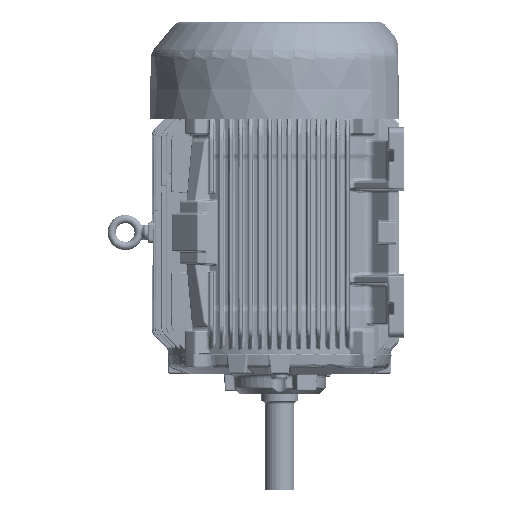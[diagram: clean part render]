
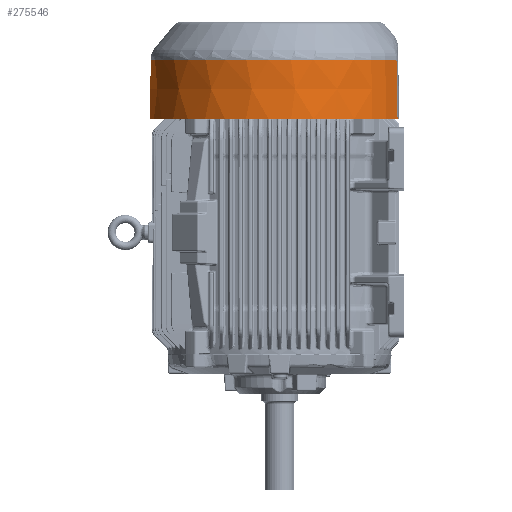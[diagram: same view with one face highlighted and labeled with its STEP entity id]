
A CAD part, left-side view. The second image highlights one B-rep face of the part: STEP entity #275546.
In plain terms, the highlighted conical face has half-angle 1 degrees and reference radius 263.606 mm.
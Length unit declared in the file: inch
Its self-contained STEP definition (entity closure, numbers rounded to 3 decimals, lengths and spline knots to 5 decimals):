
#268692=CARTESIAN_POINT('',(-4.38815,-9.45051,0.));
#268704=CARTESIAN_POINT('',(4.38815,-9.45051,0.));
#268710=CARTESIAN_POINT('',(-4.37264,-9.36644,
-4.74313));
#268711=CARTESIAN_POINT('',(-4.37393,-9.37342,
-4.34914));
#268712=CARTESIAN_POINT('',(-4.37648,-9.38726,
-3.5667));
#268713=CARTESIAN_POINT('',(-4.3802,-9.40736,
-2.43388));
#268714=CARTESIAN_POINT('',(-4.384,-9.42801,
-1.26935));
#268715=CARTESIAN_POINT('',(-4.38674,-9.44287,
-0.43116));
#268716=CARTESIAN_POINT('',(-4.38815,-9.45051,0.));
#268718=CARTESIAN_POINT('',(0.,0.,-4.74313));
#268719=DIRECTION('',(0.,0.,-1.));
#268720=DIRECTION('',(-0.423,-0.906,0.));
#268721=AXIS2_PLACEMENT_3D('',#268718,#268719,#268720);
#268723=CARTESIAN_POINT('',(4.38815,-9.45051,0.));
#268724=CARTESIAN_POINT('',(4.38698,-9.44414,
-0.35943));
#268725=CARTESIAN_POINT('',(4.38458,-9.43112,
-1.09362));
#268726=CARTESIAN_POINT('',(4.38086,-9.41098,
-2.22957));
#268727=CARTESIAN_POINT('',(4.37692,-9.38963,
-3.43405));
#268728=CARTESIAN_POINT('',(4.37409,-9.37432,
-4.29751));
#268729=CARTESIAN_POINT('',(4.37263,-9.36641,
-4.74313));
#268731=CARTESIAN_POINT('',(0.,0.,0.));
#268732=DIRECTION('',(0.,0.,1.));
#268733=DIRECTION('',(0.421,-0.907,0.));
#268734=AXIS2_PLACEMENT_3D('',#268731,#268732,#268733);
#273455=VERTEX_POINT('',#268692);
#273458=VERTEX_POINT('',#268710);
#273465=CARTESIAN_POINT('',(4.37263,-9.36641,
-4.74313));
#273466=VERTEX_POINT('',#273465);
#273468=VERTEX_POINT('',#268704);
#275534=CARTESIAN_POINT('',(0.,0.,-2.37157));
#275535=DIRECTION('',(0.,0.,1.));
#275536=DIRECTION('',(0.,1.,0.));
#275537=AXIS2_PLACEMENT_3D('',#275534,#275535,#275536);
#275538=CONICAL_SURFACE('',#275537,10.3782,1.);
#275539=ORIENTED_EDGE('',*,*,#275515,.F.);
#275540=ORIENTED_EDGE('',*,*,#275393,.T.);
#275542=ORIENTED_EDGE('',*,*,#275541,.F.);
#275543=ORIENTED_EDGE('',*,*,#275526,.T.);
#275544=EDGE_LOOP('',(#275539,#275540,#275542,#275543));
#275545=FACE_OUTER_BOUND('',#275544,.F.);
#275546=ADVANCED_FACE('',(#275545),#275538,.T.);
#268717=B_SPLINE_CURVE_WITH_KNOTS('',3,(#268710,#268711,#268712,#268713,#268714,
#268715,#268716),.UNSPECIFIED.,.F.,.F.,(4,1,1,1,4),(0.,0.25,0.5,0.75,
1.),.UNSPECIFIED.);
#268722=CIRCLE('',#268721,10.33681);
#268730=B_SPLINE_CURVE_WITH_KNOTS('',3,(#268723,#268724,#268725,#268726,#268727,
#268728,#268729),.UNSPECIFIED.,.F.,.F.,(4,1,1,1,4),(0.,0.25,0.5,0.75,
1.),.UNSPECIFIED.);
#268735=CIRCLE('',#268734,10.4196);
#275393=EDGE_CURVE('',#273458,#273466,#268722,.T.);
#275515=EDGE_CURVE('',#273458,#273455,#268717,.T.);
#275526=EDGE_CURVE('',#273468,#273455,#268735,.T.);
#275541=EDGE_CURVE('',#273468,#273466,#268730,.T.);
